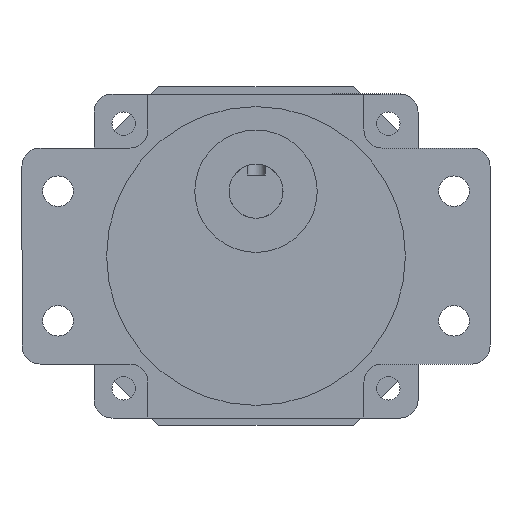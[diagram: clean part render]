
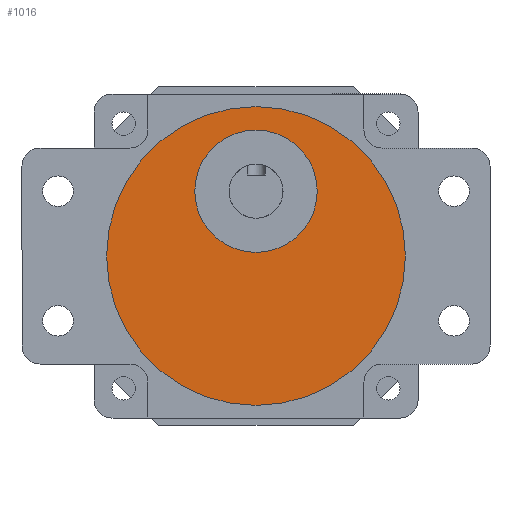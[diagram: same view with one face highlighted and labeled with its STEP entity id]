
A CAD part, front view. The second image highlights one B-rep face of the part: STEP entity #1016.
In plain terms, the highlighted planar face has unit normal (0, -1, 0).
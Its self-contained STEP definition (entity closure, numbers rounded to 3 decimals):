
#55 = DIRECTION ( 'NONE',  ( 0., -1., 0. ) ) ;
#646 = ORIENTED_EDGE ( 'NONE', *, *, #2990, .T. ) ;
#706 = DIRECTION ( 'NONE',  ( 0., -1., 0. ) ) ;
#998 = CIRCLE ( 'NONE', #3722, 17. ) ;
#1016 = ADVANCED_FACE ( 'NONE', ( #1155, #1856 ), #2728, .T. ) ;
#1155 = FACE_BOUND ( 'NONE', #1450, .T. ) ;
#1175 = VERTEX_POINT ( 'NONE', #5330 ) ;
#1187 = DIRECTION ( 'NONE',  ( 0., 0., -1. ) ) ;
#1239 = CIRCLE ( 'NONE', #3437, 41.5 ) ;
#1255 = AXIS2_PLACEMENT_3D ( 'NONE', #2259, #55, #2276 ) ;
#1450 = EDGE_LOOP ( 'NONE', ( #2172, #3983 ) ) ;
#1590 = DIRECTION ( 'NONE',  ( 0., -1., 0. ) ) ;
#1856 = FACE_OUTER_BOUND ( 'NONE', #3366, .T. ) ;
#2172 = ORIENTED_EDGE ( 'NONE', *, *, #4478, .F. ) ;
#2219 = ORIENTED_EDGE ( 'NONE', *, *, #4953, .T. ) ;
#2244 = AXIS2_PLACEMENT_3D ( 'NONE', #4224, #1590, #2969 ) ;
#2259 = CARTESIAN_POINT ( 'NONE',  ( 45., -63.5, 45. ) ) ;
#2276 = DIRECTION ( 'NONE',  ( 0., 0., -1. ) ) ;
#2307 = CIRCLE ( 'NONE', #3840, 41.5 ) ;
#2728 = PLANE ( 'NONE',  #1255 ) ;
#2937 = CARTESIAN_POINT ( 'NONE',  ( 45., -63.5, 45. ) ) ;
#2969 = DIRECTION ( 'NONE',  ( 0., 0., -1. ) ) ;
#2990 = EDGE_CURVE ( 'NONE', #5602, #1175, #1239, .T. ) ;
#3102 = EDGE_CURVE ( 'NONE', #3108, #5231, #3717, .T. ) ;
#3108 = VERTEX_POINT ( 'NONE', #5185 ) ;
#3366 = EDGE_LOOP ( 'NONE', ( #2219, #646 ) ) ;
#3396 = DIRECTION ( 'NONE',  ( 0., -1., 0. ) ) ;
#3413 = CARTESIAN_POINT ( 'NONE',  ( 45., -63.5, 86.5 ) ) ;
#3437 = AXIS2_PLACEMENT_3D ( 'NONE', #2937, #3396, #1187 ) ;
#3717 = CIRCLE ( 'NONE', #2244, 17. ) ;
#3722 = AXIS2_PLACEMENT_3D ( 'NONE', #3842, #3878, #4330 ) ;
#3840 = AXIS2_PLACEMENT_3D ( 'NONE', #4664, #706, #5145 ) ;
#3842 = CARTESIAN_POINT ( 'NONE',  ( 45., -63.5, 63. ) ) ;
#3878 = DIRECTION ( 'NONE',  ( 0., -1., 0. ) ) ;
#3983 = ORIENTED_EDGE ( 'NONE', *, *, #3102, .F. ) ;
#4224 = CARTESIAN_POINT ( 'NONE',  ( 45., -63.5, 63. ) ) ;
#4330 = DIRECTION ( 'NONE',  ( 0., 0., -1. ) ) ;
#4478 = EDGE_CURVE ( 'NONE', #5231, #3108, #998, .T. ) ;
#4664 = CARTESIAN_POINT ( 'NONE',  ( 45., -63.5, 45. ) ) ;
#4953 = EDGE_CURVE ( 'NONE', #1175, #5602, #2307, .T. ) ;
#5145 = DIRECTION ( 'NONE',  ( 0., 0., -1. ) ) ;
#5185 = CARTESIAN_POINT ( 'NONE',  ( 45., -63.5, 46. ) ) ;
#5231 = VERTEX_POINT ( 'NONE', #5398 ) ;
#5330 = CARTESIAN_POINT ( 'NONE',  ( 45., -63.5, 3.5 ) ) ;
#5398 = CARTESIAN_POINT ( 'NONE',  ( 45., -63.5, 80. ) ) ;
#5602 = VERTEX_POINT ( 'NONE', #3413 ) ;
